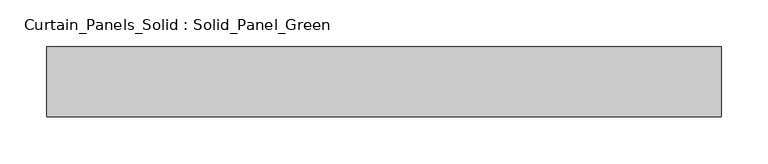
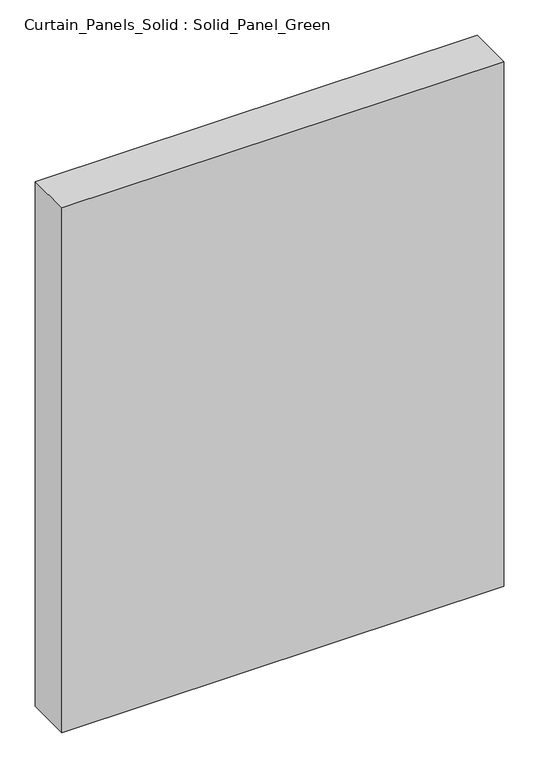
"""IFC4 building model written with IfcOpenShell, lengths in millimetres: plate geometry, Curtain_Panels_Solid : Solid_Panel_Green."""

from ifc_helpers import new_model, si_unit, origin, origin_with_axes, place, context, project, spatial, polyline, outline, extrude, source, transform, mapped, element, save


def curtain_panels_solid_solid_panel_green_f877d991(model_context):
    return source(origin(), model_context, "Body", "SweptSolid", [
        extrude(outline(polyline([(361.2499999, 25.0), (361.2499999, -50.0), (-361.2499999, -50.0), (-361.2499999, 25.0), (361.2499999, 25.0)])), origin_with_axes(), (0.0, 0.0, 1.0), 907.5),
    ])


if __name__ == "__main__":
    model = new_model("IFC4")
    model_context = context("Model", 3, world=origin())
    ifc_project = project(units=[si_unit("LENGTHUNIT", "METRE", prefix="MILLI")], contexts=[model_context])
    site = spatial("IfcSite", under=ifc_project)
    building = spatial("IfcBuilding", under=site)
    placement = place(None, origin())
    curtain_panels_solid_solid_panel_green_shape = curtain_panels_solid_solid_panel_green_f877d991(model_context)
    element("IfcPlate", 1, ObjectType="Curtain_Panels_Solid : Solid_Panel_Green", at=placement, inside=building, context=model_context, shape_type="MappedRepresentation", body=[
        mapped(curtain_panels_solid_solid_panel_green_shape, transform((0.0, 0.0, 0.0), x_axis=(1.0, 0.0, 0.0), y_axis=(0.0, 1.0, 0.0), z_axis=(0.0, 0.0, 1.0))),
    ])
    save(model, "model.ifc")
